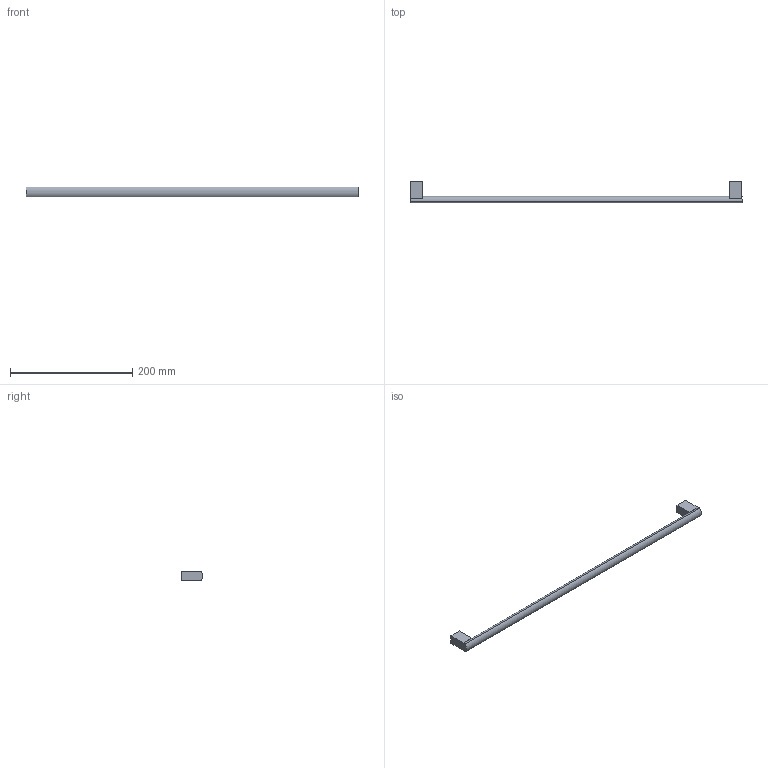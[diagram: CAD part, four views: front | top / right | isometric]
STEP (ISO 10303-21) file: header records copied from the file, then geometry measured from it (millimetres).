
FILE_DESCRIPTION( ( 'STEP AP214' ), '1' );
FILE_NAME( 'D:/Shahbaz D&D/Task/Check and correct handles with 3 drill sockets/Clivia/115362.stp', '2023-02-20T11:07:34', ( '' ), ( '' ), ' ', 'PARTsolutions', ' ' );
FILE_SCHEMA( ( 'AUTOMOTIVE_DESIGN { 1 0 10303 214 1 1 1 1 }' ) );
Length unit declared in the file: millimetre
Products named in the file (1): _115362
Bounding box: 544 x 35.96 x 16 mm (x, y, z)
Volume: 88203.9 mm3; surface area: 27516.8 mm2
Topology: 1 solids, 1 shells, 21 faces, 48 edges, 32 vertices
Faces by surface type: plane 17, cylinder 4
Full cylindrical faces by diameter (mm): 4 x2
Entity records: 768 total; most frequent: DIRECTION 102, CARTESIAN_POINT 100, ORIENTED_EDGE 92, EDGE_CURVE 46, AXIS2_PLACEMENT_3D 34, LINE 34, VECTOR 34, VERTEX_POINT 32
